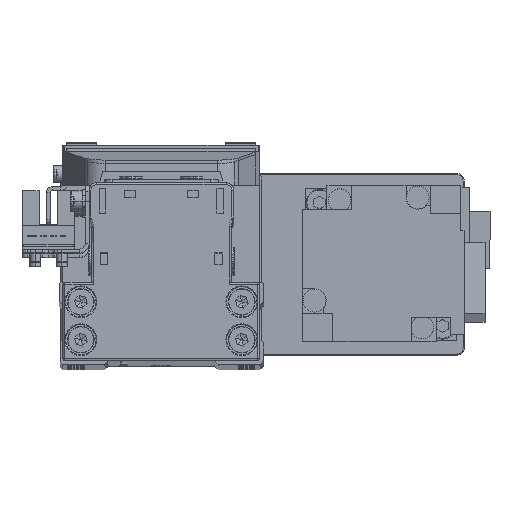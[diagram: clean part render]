
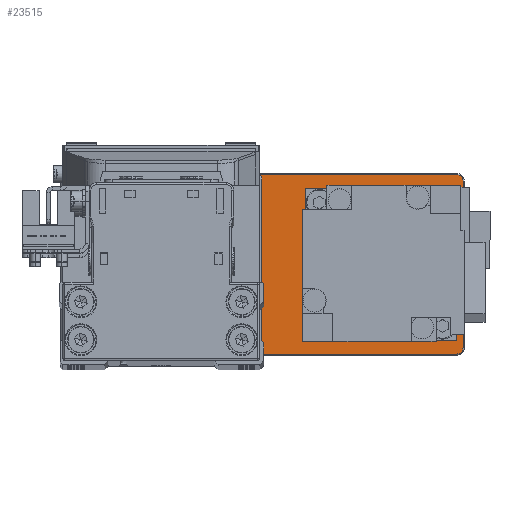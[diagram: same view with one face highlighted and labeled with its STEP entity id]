
A CAD part, top view. The second image highlights one B-rep face of the part: STEP entity #23515.
In plain terms, the highlighted planar face has unit normal (0, 0, 1).
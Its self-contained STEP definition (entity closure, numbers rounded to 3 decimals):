
#657 = AXIS2_PLACEMENT_3D ( 'NONE', #33815, #5738, #18208 ) ;
#963 = PLANE ( 'NONE',  #16814 ) ;
#1238 = EDGE_CURVE ( 'NONE', #9229, #6524, #24116, .T. ) ;
#1341 = DIRECTION ( 'NONE',  ( 0., 0., -1. ) ) ;
#2310 = VERTEX_POINT ( 'NONE', #29929 ) ;
#2551 = CIRCLE ( 'NONE', #25418, 1.7 ) ;
#2903 = VERTEX_POINT ( 'NONE', #28406 ) ;
#3319 = EDGE_CURVE ( 'NONE', #2310, #22629, #31643, .T. ) ;
#3922 = DIRECTION ( 'NONE',  ( 0., 0., -1. ) ) ;
#4029 = FACE_BOUND ( 'NONE', #7815, .T. ) ;
#4049 = CARTESIAN_POINT ( 'NONE',  ( -50., -22., 5. ) ) ;
#4214 = CARTESIAN_POINT ( 'NONE',  ( -50., -23.7, 5. ) ) ;
#4276 = CIRCLE ( 'NONE', #27159, 12.8 ) ;
#5644 = EDGE_CURVE ( 'NONE', #32584, #22702, #30394, .T. ) ;
#5738 = DIRECTION ( 'NONE',  ( 0., 0., 1. ) ) ;
#6455 = AXIS2_PLACEMENT_3D ( 'NONE', #28851, #1341, #13824 ) ;
#6524 = VERTEX_POINT ( 'NONE', #7135 ) ;
#6996 = EDGE_CURVE ( 'NONE', #32112, #29647, #13629, .T. ) ;
#7106 = EDGE_LOOP ( 'NONE', ( #28929, #38570, #32320, #40094, #24466, #10078, #19717, #9738 ) ) ;
#7135 = CARTESIAN_POINT ( 'NONE',  ( 17.2, 0., 5. ) ) ;
#7815 = EDGE_LOOP ( 'NONE', ( #11350, #15936 ) ) ;
#7872 = DIRECTION ( 'NONE',  ( 1., 0., 0. ) ) ;
#8409 = DIRECTION ( 'NONE',  ( 0., 0., -1. ) ) ;
#8838 = VECTOR ( 'NONE', #21901, 1000. ) ;
#9229 = VERTEX_POINT ( 'NONE', #22421 ) ;
#9408 = CARTESIAN_POINT ( 'NONE',  ( -51.7, -22., 5. ) ) ;
#9424 = CIRCLE ( 'NONE', #32371, 10.3 ) ;
#9738 = ORIENTED_EDGE ( 'NONE', *, *, #24936, .T. ) ;
#9901 = CIRCLE ( 'NONE', #32849, 1.7 ) ;
#9987 = VERTEX_POINT ( 'NONE', #28105 ) ;
#10078 = ORIENTED_EDGE ( 'NONE', *, *, #30831, .T. ) ;
#11179 = LINE ( 'NONE', #23675, #34321 ) ;
#11192 = DIRECTION ( 'NONE',  ( -1., 0., 0. ) ) ;
#11350 = ORIENTED_EDGE ( 'NONE', *, *, #1238, .T. ) ;
#11440 = EDGE_CURVE ( 'NONE', #22629, #2310, #9424, .T. ) ;
#12364 = CARTESIAN_POINT ( 'NONE',  ( -17.7, 0., 5. ) ) ;
#12611 = CARTESIAN_POINT ( 'NONE',  ( 50., 22., 5. ) ) ;
#12698 = AXIS2_PLACEMENT_3D ( 'NONE', #12611, #25100, #37613 ) ;
#13444 = CARTESIAN_POINT ( 'NONE',  ( 0., 0., 5. ) ) ;
#13629 = LINE ( 'NONE', #26130, #30111 ) ;
#13824 = DIRECTION ( 'NONE',  ( 1., 0., 0. ) ) ;
#13945 = CARTESIAN_POINT ( 'NONE',  ( -28., 0., 5. ) ) ;
#13965 = AXIS2_PLACEMENT_3D ( 'NONE', #31999, #3922, #16402 ) ;
#14631 = CARTESIAN_POINT ( 'NONE',  ( -51.7, 22., 5. ) ) ;
#14807 = ORIENTED_EDGE ( 'NONE', *, *, #3319, .T. ) ;
#15936 = ORIENTED_EDGE ( 'NONE', *, *, #29639, .T. ) ;
#16402 = DIRECTION ( 'NONE',  ( 1., 0., 0. ) ) ;
#16506 = FACE_BOUND ( 'NONE', #25683, .T. ) ;
#16527 = DIRECTION ( 'NONE',  ( 0., 0., 1. ) ) ;
#16814 = AXIS2_PLACEMENT_3D ( 'NONE', #13444, #25930, #38423 ) ;
#17245 = CARTESIAN_POINT ( 'NONE',  ( 51.7, 22., 5. ) ) ;
#17445 = EDGE_CURVE ( 'NONE', #29647, #9987, #18299, .T. ) ;
#18208 = DIRECTION ( 'NONE',  ( 1., 0., 0. ) ) ;
#18299 = CIRCLE ( 'NONE', #657, 1.7 ) ;
#19103 = CARTESIAN_POINT ( 'NONE',  ( 50., 23.7, 5. ) ) ;
#19717 = ORIENTED_EDGE ( 'NONE', *, *, #29782, .T. ) ;
#19927 = VERTEX_POINT ( 'NONE', #29394 ) ;
#20898 = DIRECTION ( 'NONE',  ( 1., 0., 0. ) ) ;
#21682 = VECTOR ( 'NONE', #11192, 1000. ) ;
#21901 = DIRECTION ( 'NONE',  ( 0., -1., 0. ) ) ;
#22421 = CARTESIAN_POINT ( 'NONE',  ( 42.8, 0., 5. ) ) ;
#22629 = VERTEX_POINT ( 'NONE', #12364 ) ;
#22702 = VERTEX_POINT ( 'NONE', #19103 ) ;
#23422 = CARTESIAN_POINT ( 'NONE',  ( -50., 22., 5. ) ) ;
#23515 = ADVANCED_FACE ( 'NONE', ( #4029, #16506, #29026 ), #963, .T. ) ;
#23675 = CARTESIAN_POINT ( 'NONE',  ( 51.7, 22., 5. ) ) ;
#24116 = CIRCLE ( 'NONE', #6455, 12.8 ) ;
#24466 = ORIENTED_EDGE ( 'NONE', *, *, #25079, .T. ) ;
#24936 = EDGE_CURVE ( 'NONE', #2903, #32112, #9901, .T. ) ;
#25079 = EDGE_CURVE ( 'NONE', #22702, #19927, #26776, .T. ) ;
#25100 = DIRECTION ( 'NONE',  ( 0., 0., 1. ) ) ;
#25418 = AXIS2_PLACEMENT_3D ( 'NONE', #23422, #35940, #7872 ) ;
#25683 = EDGE_LOOP ( 'NONE', ( #37927, #14807 ) ) ;
#25930 = DIRECTION ( 'NONE',  ( 0., 0., 1. ) ) ;
#26130 = CARTESIAN_POINT ( 'NONE',  ( 50., -23.7, 5. ) ) ;
#26451 = DIRECTION ( 'NONE',  ( 0., 0., -1. ) ) ;
#26776 = LINE ( 'NONE', #39257, #21682 ) ;
#27159 = AXIS2_PLACEMENT_3D ( 'NONE', #39542, #8409, #20898 ) ;
#28105 = CARTESIAN_POINT ( 'NONE',  ( 51.7, -22., 5. ) ) ;
#28109 = VERTEX_POINT ( 'NONE', #14631 ) ;
#28406 = CARTESIAN_POINT ( 'NONE',  ( -51.7, -22., 5. ) ) ;
#28851 = CARTESIAN_POINT ( 'NONE',  ( 30., 0., 5. ) ) ;
#28929 = ORIENTED_EDGE ( 'NONE', *, *, #6996, .T. ) ;
#29026 = FACE_OUTER_BOUND ( 'NONE', #7106, .T. ) ;
#29054 = DIRECTION ( 'NONE',  ( 1., 0., 0. ) ) ;
#29190 = EDGE_CURVE ( 'NONE', #9987, #32584, #11179, .T. ) ;
#29394 = CARTESIAN_POINT ( 'NONE',  ( -50., 23.7, 5. ) ) ;
#29639 = EDGE_CURVE ( 'NONE', #6524, #9229, #4276, .T. ) ;
#29647 = VERTEX_POINT ( 'NONE', #30353 ) ;
#29782 = EDGE_CURVE ( 'NONE', #28109, #2903, #37482, .T. ) ;
#29929 = CARTESIAN_POINT ( 'NONE',  ( -38.3, 0., 5. ) ) ;
#30111 = VECTOR ( 'NONE', #38621, 1000. ) ;
#30353 = CARTESIAN_POINT ( 'NONE',  ( 50., -23.7, 5. ) ) ;
#30394 = CIRCLE ( 'NONE', #12698, 1.7 ) ;
#30831 = EDGE_CURVE ( 'NONE', #19927, #28109, #2551, .T. ) ;
#31643 = CIRCLE ( 'NONE', #13965, 10.3 ) ;
#31999 = CARTESIAN_POINT ( 'NONE',  ( -28., 0., 5. ) ) ;
#32112 = VERTEX_POINT ( 'NONE', #4214 ) ;
#32320 = ORIENTED_EDGE ( 'NONE', *, *, #29190, .T. ) ;
#32371 = AXIS2_PLACEMENT_3D ( 'NONE', #13945, #26451, #38946 ) ;
#32584 = VERTEX_POINT ( 'NONE', #17245 ) ;
#32849 = AXIS2_PLACEMENT_3D ( 'NONE', #4049, #16527, #29054 ) ;
#33815 = CARTESIAN_POINT ( 'NONE',  ( 50., -22., 5. ) ) ;
#34321 = VECTOR ( 'NONE', #36174, 1000. ) ;
#35940 = DIRECTION ( 'NONE',  ( 0., 0., 1. ) ) ;
#36174 = DIRECTION ( 'NONE',  ( 0., 1., 0. ) ) ;
#37482 = LINE ( 'NONE', #9408, #8838 ) ;
#37613 = DIRECTION ( 'NONE',  ( 1., 0., 0. ) ) ;
#37927 = ORIENTED_EDGE ( 'NONE', *, *, #11440, .T. ) ;
#38423 = DIRECTION ( 'NONE',  ( 1., 0., 0. ) ) ;
#38570 = ORIENTED_EDGE ( 'NONE', *, *, #17445, .T. ) ;
#38621 = DIRECTION ( 'NONE',  ( 1., 0., 0. ) ) ;
#38946 = DIRECTION ( 'NONE',  ( 1., 0., 0. ) ) ;
#39257 = CARTESIAN_POINT ( 'NONE',  ( -50., 23.7, 5. ) ) ;
#39542 = CARTESIAN_POINT ( 'NONE',  ( 30., 0., 5. ) ) ;
#40094 = ORIENTED_EDGE ( 'NONE', *, *, #5644, .T. ) ;
